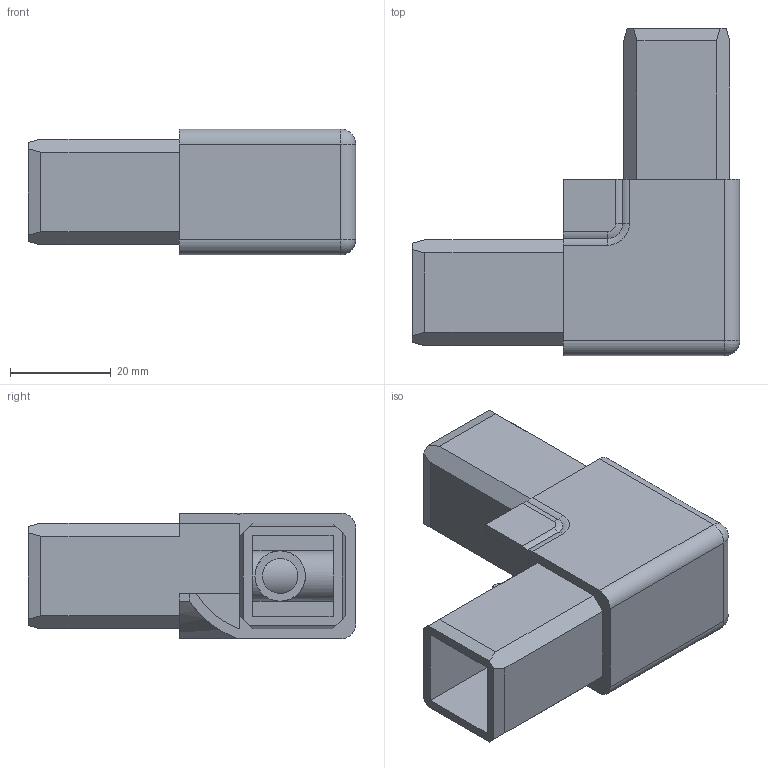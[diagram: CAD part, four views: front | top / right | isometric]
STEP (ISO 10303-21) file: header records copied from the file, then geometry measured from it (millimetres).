
FILE_DESCRIPTION (( 'STEP AP214' ), '1' );
FILE_NAME ('L15830.step', '2024-12-03T16:19:37', ( '' ), ( '' ), 'SwSTEP 2.0', 'SolidWorks 2023', '' );
FILE_SCHEMA (( 'AUTOMOTIVE_DESIGN' ));
Length unit declared in the file: millimetre
Products named in the file (1): L15830
Bounding box: 65 x 65 x 25 mm (x, y, z)
Volume: 23774.5 mm3; surface area: 20812.1 mm2
Topology: 1 solids, 4 shells, 92 faces, 233 edges, 149 vertices
Faces by surface type: plane 59, cylinder 29, torus 2, sphere 2
Full cylindrical faces by diameter (mm): 7 x4, 10 x4
Entity records: 2909 total; most frequent: CARTESIAN_POINT 750, ORIENTED_EDGE 438, DIRECTION 423, EDGE_CURVE 219, VECTOR 171, LINE 171, VERTEX_POINT 145, AXIS2_PLACEMENT_3D 126
